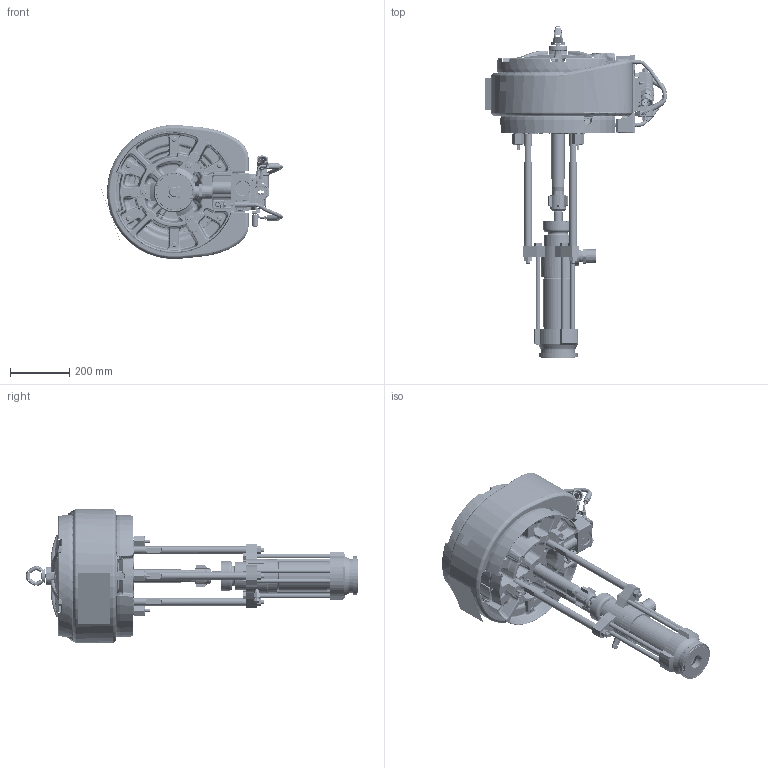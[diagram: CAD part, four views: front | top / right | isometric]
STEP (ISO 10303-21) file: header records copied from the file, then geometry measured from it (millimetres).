
FILE_DESCRIPTION((''),'2;1');
FILE_NAME('24Y211-EN-F_PRT','2020-05-28T13:56:34',('qusrh3'),(''),'CREO PARAMETRIC BY PTC INC, 2019030','CREO PARAMETRIC BY PTC INC, 2019030','');
FILE_SCHEMA(('CONFIG_CONTROL_DESIGN'));
Length unit declared in the file: inch
Products named in the file (1): 24Y211-EN-F_PRT
Bounding box: 615.56 x 1124.67 x 454.59 mm (x, y, z)
Surface area: 3767651.3 mm2 (no closed solid volume)
Topology: 0 solids, 653 shells, 4501 faces, 17792 edges, 13421 vertices
Faces by surface type: plane 1233, cylinder 972, bspline 969, cone 729, torus 588, extrusion 6, sphere 4
Entity records: 260099 total; most frequent: CARTESIAN_POINT 131472, ORIENTED_EDGE 24900, DIRECTION 22916, EDGE_CURVE 17789, VERTEX_POINT 13421, AXIS2_PLACEMENT_3D 9176, B_SPLINE_CURVE_WITH_KNOTS 7587, CIRCLE 5648
